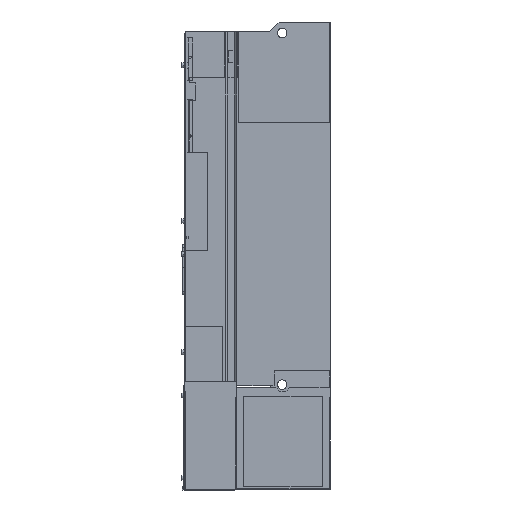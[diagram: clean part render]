
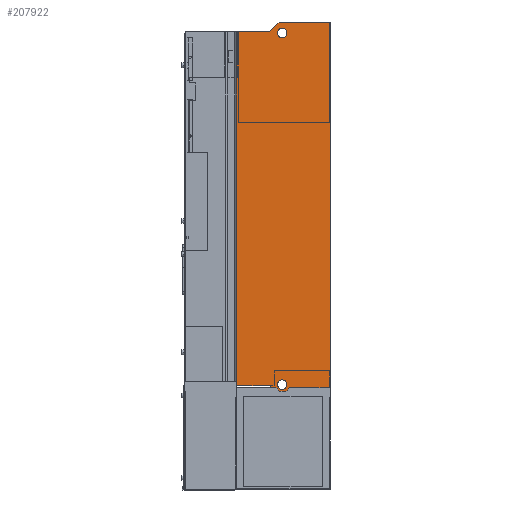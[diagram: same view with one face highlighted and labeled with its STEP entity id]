
A CAD part, left-side view. The second image highlights one B-rep face of the part: STEP entity #207922.
In plain terms, the highlighted planar face has unit normal (-1, 0, 0).
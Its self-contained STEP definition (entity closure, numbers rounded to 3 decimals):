
#193680=DIRECTION('',(0.,1.,0.));
#193681=VECTOR('',#193680,130.);
#193682=CARTESIAN_POINT('',(0.,0.,
0.));
#193683=LINE('',#193682,#193681);
#193684=DIRECTION('',(0.,0.707,0.707));
#193685=VECTOR('',#193684,35.355);
#193686=CARTESIAN_POINT('',(0.,130.,0.));
#193687=LINE('',#193686,#193685);
#193688=DIRECTION('',(0.,1.,0.));
#193689=VECTOR('',#193688,82.25);
#193690=CARTESIAN_POINT('',(0.,155.,25.));
#193691=LINE('',#193690,#193689);
#193692=DIRECTION('',(0.,0.,1.));
#193693=VECTOR('',#193692,900.);
#193694=CARTESIAN_POINT('',(0.,237.25,25.));
#193695=LINE('',#193694,#193693);
#193696=DIRECTION('',(0.,-1.,0.));
#193697=VECTOR('',#193696,82.25);
#193698=CARTESIAN_POINT('',(0.,237.25,925.));
#193699=LINE('',#193698,#193697);
#193700=DIRECTION('',(0.,-0.707,
0.707));
#193701=VECTOR('',#193700,35.355);
#193702=CARTESIAN_POINT('',(0.,155.,925.));
#193703=LINE('',#193702,#193701);
#193704=DIRECTION('',(0.,-1.,0.));
#193705=VECTOR('',#193704,130.);
#193706=CARTESIAN_POINT('',(0.,130.,950.));
#193707=LINE('',#193706,#193705);
#193708=DIRECTION('',(0.,0.,-1.));
#193709=VECTOR('',#193708,950.);
#193710=CARTESIAN_POINT('',(0.,0.,950.));
#193711=LINE('',#193710,#193709);
#193712=CARTESIAN_POINT('',(0.,122.,922.));
#193713=DIRECTION('',(-1.,0.,0.));
#193714=DIRECTION('',(0.,0.,1.));
#193715=AXIS2_PLACEMENT_3D('',#193712,#193713,#193714);
#193717=CARTESIAN_POINT('',(0.,122.,922.));
#193718=DIRECTION('',(-1.,0.,0.));
#193719=DIRECTION('',(0.,0.,-1.));
#193720=AXIS2_PLACEMENT_3D('',#193717,#193718,#193719);
#193722=CARTESIAN_POINT('',(0.,122.,28.));
#193723=DIRECTION('',(-1.,0.,0.));
#193724=DIRECTION('',(0.,0.,1.));
#193725=AXIS2_PLACEMENT_3D('',#193722,#193723,#193724);
#193727=CARTESIAN_POINT('',(0.,122.,28.));
#193728=DIRECTION('',(-1.,0.,0.));
#193729=DIRECTION('',(0.,0.,-1.));
#193730=AXIS2_PLACEMENT_3D('',#193727,#193728,#193729);
#198271=CARTESIAN_POINT('',(0.,0.,
0.));
#198272=VERTEX_POINT('',#198271);
#198273=CARTESIAN_POINT('',(0.,0.,950.));
#198274=VERTEX_POINT('',#198273);
#198347=CARTESIAN_POINT('',(0.,130.,0.));
#198348=VERTEX_POINT('',#198347);
#198361=CARTESIAN_POINT('',(0.,237.25,25.));
#198362=VERTEX_POINT('',#198361);
#198363=CARTESIAN_POINT('',(0.,155.,25.));
#198364=VERTEX_POINT('',#198363);
#199742=CARTESIAN_POINT('',(0.,155.,925.));
#199743=VERTEX_POINT('',#199742);
#199744=CARTESIAN_POINT('',(0.,237.25,925.));
#199745=VERTEX_POINT('',#199744);
#199780=CARTESIAN_POINT('',(0.,130.,950.));
#199781=VERTEX_POINT('',#199780);
#199782=CARTESIAN_POINT('',(0.,122.,934.));
#199783=CARTESIAN_POINT('',(0.,122.,910.));
#199784=VERTEX_POINT('',#199782);
#199785=VERTEX_POINT('',#199783);
#199786=CARTESIAN_POINT('',(0.,122.,40.));
#199787=CARTESIAN_POINT('',(0.,122.,16.));
#199788=VERTEX_POINT('',#199786);
#199789=VERTEX_POINT('',#199787);
#207892=CARTESIAN_POINT('',(0.,118.625,475.));
#207893=DIRECTION('',(1.,0.,0.));
#207894=DIRECTION('',(0.,-1.,0.));
#207895=AXIS2_PLACEMENT_3D('',#207892,#207893,#207894);
#207896=PLANE('',#207895);
#207897=ORIENTED_EDGE('',*,*,#201315,.T.);
#207899=ORIENTED_EDGE('',*,*,#207898,.T.);
#207900=ORIENTED_EDGE('',*,*,#201351,.T.);
#207902=ORIENTED_EDGE('',*,*,#207901,.T.);
#207903=ORIENTED_EDGE('',*,*,#207697,.T.);
#207905=ORIENTED_EDGE('',*,*,#207904,.T.);
#207906=ORIENTED_EDGE('',*,*,#207819,.T.);
#207907=ORIENTED_EDGE('',*,*,#201205,.T.);
#207908=EDGE_LOOP('',(#207897,#207899,#207900,#207902,#207903,#207905,#207906,
#207907));
#207909=FACE_OUTER_BOUND('',#207908,.F.);
#207911=ORIENTED_EDGE('',*,*,#207910,.T.);
#207913=ORIENTED_EDGE('',*,*,#207912,.T.);
#207914=EDGE_LOOP('',(#207911,#207913));
#207915=FACE_BOUND('',#207914,.F.);
#207917=ORIENTED_EDGE('',*,*,#207916,.T.);
#207919=ORIENTED_EDGE('',*,*,#207918,.T.);
#207920=EDGE_LOOP('',(#207917,#207919));
#207921=FACE_BOUND('',#207920,.F.);
#193716=CIRCLE('',#193715,12.);
#193721=CIRCLE('',#193720,12.);
#193726=CIRCLE('',#193725,12.);
#193731=CIRCLE('',#193730,12.);
#201205=EDGE_CURVE('',#198274,#198272,#193711,.T.);
#201315=EDGE_CURVE('',#198272,#198348,#193683,.T.);
#201351=EDGE_CURVE('',#198364,#198362,#193691,.T.);
#207697=EDGE_CURVE('',#199745,#199743,#193699,.T.);
#207819=EDGE_CURVE('',#199781,#198274,#193707,.T.);
#207898=EDGE_CURVE('',#198348,#198364,#193687,.T.);
#207901=EDGE_CURVE('',#198362,#199745,#193695,.T.);
#207904=EDGE_CURVE('',#199743,#199781,#193703,.T.);
#207910=EDGE_CURVE('',#199784,#199785,#193716,.T.);
#207912=EDGE_CURVE('',#199785,#199784,#193721,.T.);
#207916=EDGE_CURVE('',#199788,#199789,#193726,.T.);
#207918=EDGE_CURVE('',#199789,#199788,#193731,.T.);
#207922=ADVANCED_FACE('',(#207909,#207915,#207921),#207896,.F.);
